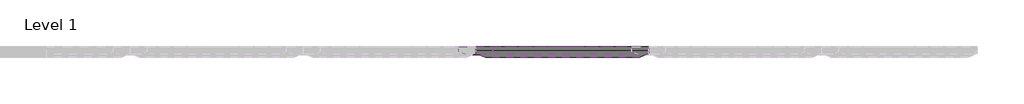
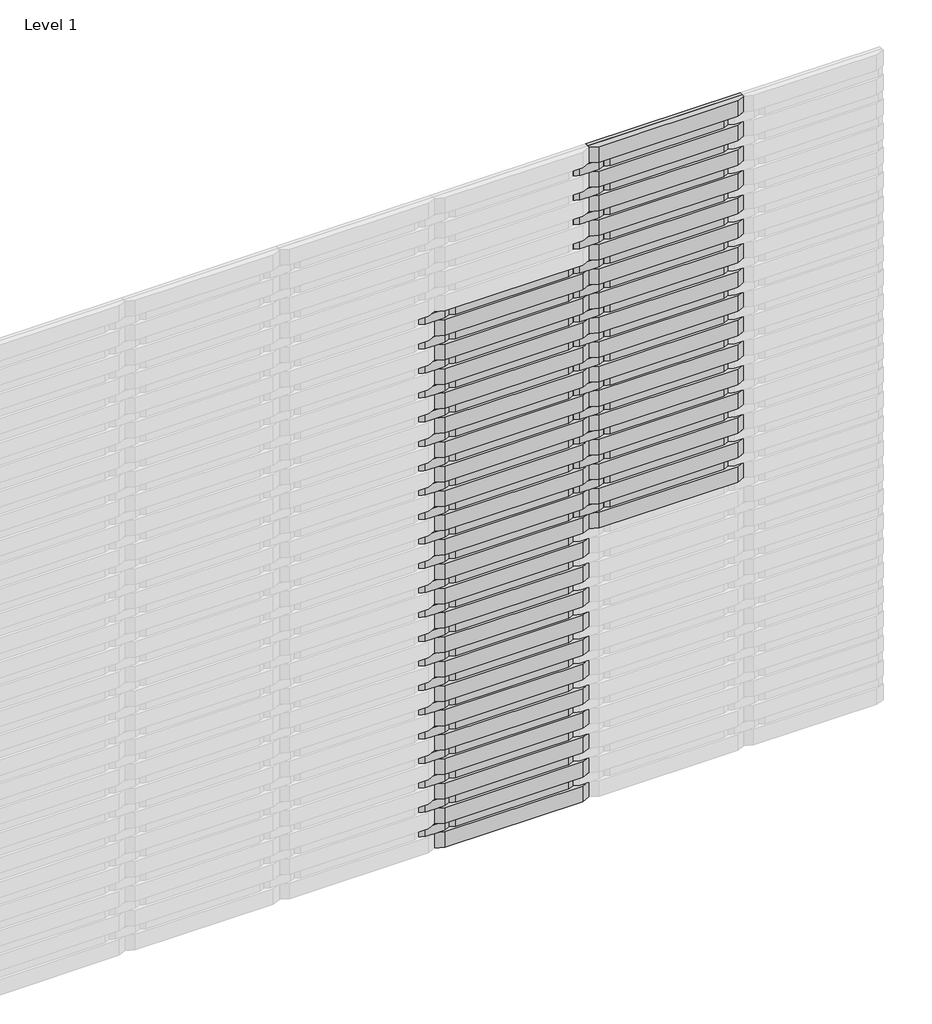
# One storey, part 3 of 4: 112 proxies.
"""IFC4 building model written with IfcOpenShell, lengths in millimetres."""

import ifcopenshell
import ifcopenshell.guid

model = None  # the IFC model being written
_history = None  # IfcOwnerHistory: only IFC2X3 demands one
_inside = {}  # id of a spatial element -> (the spatial element, [elements in it])
_under = {}  # id of a project, library or spatial element -> (it, [spatial elements below it])
_declared = {}  # id of a project -> (the project, [libraries it declares])
_typed = {}  # id of a type object -> (the type object, [elements of that type])
_made_of = {}  # id of a material, layer set ... -> (it, [elements and type objects made of it])


def new_model(schema):
    """Start an empty IFC model of exactly this schema.

    Asked for "IFC4X3", IfcOpenShell would pick the latest addendum, in which some entities
    have other attributes; the version numbers below select the first issue.
    IFC2X3 requires an IfcOwnerHistory on every rooted entity: one is made here for all.
    """
    global model, _history
    if schema == "IFC4X3":
        model = ifcopenshell.file(schema_version=(4, 3, 0, 0))
    else:
        model = ifcopenshell.file(schema=schema)
    _inside.clear()
    _under.clear()
    _declared.clear()
    _typed.clear()
    _made_of.clear()
    _history = None
    if model.schema == "IFC2X3":
        org = make("IfcOrganization", Name="unknown")
        user = make(
            "IfcPersonAndOrganization",
            ThePerson=make("IfcPerson", FamilyName="unknown"),
            TheOrganization=org,
        )
        app = make(
            "IfcApplication",
            ApplicationDeveloper=org,
            Version="unknown",
            ApplicationFullName="unknown",
            ApplicationIdentifier="unknown",
        )
        _history = make(
            "IfcOwnerHistory",
            OwningUser=user,
            OwningApplication=app,
            ChangeAction="ADDED",
            CreationDate=0,
        )
    return model


def make(cls, **values):
    """One entity of the class cls with the attributes given. An attribute that is None is left unset."""
    return model.create_entity(
        cls, **{name: value for name, value in values.items() if value is not None}
    )


def rooted(cls, **values):
    """An entity with a GlobalId (a new one), such as an element, a storey or a relation."""
    return make(cls, GlobalId=ifcopenshell.guid.new(), OwnerHistory=_history, **values)


def si_unit(unit_type, name, prefix=None):
    """IfcSIUnit, for example si_unit("LENGTHUNIT", "METRE", prefix="MILLI")."""
    return make("IfcSIUnit", UnitType=unit_type, Prefix=prefix, Name=name)


def assignment(units):
    """IfcUnitAssignment: the units of a project."""
    return None if units is None else make("IfcUnitAssignment", Units=units)


def point(xyz):
    """IfcCartesianPoint."""
    return None if xyz is None else make("IfcCartesianPoint", Coordinates=xyz)


def direction(xyz):
    """IfcDirection."""
    return None if xyz is None else make("IfcDirection", DirectionRatios=xyz)


def frame(location, z_axis=None, x_axis=None):
    """IfcAxis2Placement3D, a coordinate frame: its origin and axes. An axis left out is left unset."""
    return make(
        "IfcAxis2Placement3D",
        Location=point(location),
        Axis=direction(z_axis),
        RefDirection=direction(x_axis),
    )


def origin():
    """The frame at (0, 0, 0) with its axes left unset."""
    return frame((0.0, 0.0, 0.0))


def origin_with_axes():
    """The frame at (0, 0, 0) with the z axis (0, 0, 1) and the x axis (1, 0, 0) written out."""
    return frame((0.0, 0.0, 0.0), z_axis=(0.0, 0.0, 1.0), x_axis=(1.0, 0.0, 0.0))


def place(relative_to, where):
    """IfcLocalPlacement: puts the frame where relative to a parent placement (None: the world)."""
    return make(
        "IfcLocalPlacement", PlacementRelTo=relative_to, RelativePlacement=where
    )


def context(
    kind, dimensions, precision=None, world=None, true_north=None, identifier=None
):
    """IfcGeometricRepresentationContext, for example the 3D "Model" context."""
    return make(
        "IfcGeometricRepresentationContext",
        ContextIdentifier=identifier,
        ContextType=kind,
        CoordinateSpaceDimension=dimensions,
        Precision=precision,
        WorldCoordinateSystem=world,
        TrueNorth=true_north,
    )


def project(units=None, contexts=None):
    """IfcProject with its units and contexts."""
    return rooted(
        "IfcProject",
        Name="project",
        RepresentationContexts=contexts,
        UnitsInContext=assignment(units),
    )


def spatial(cls, under=None, at=None, **own):
    """A site, building, storey or space (cls), placed at a placement, below another one or the project."""
    s = rooted(cls, ObjectPlacement=at, **own)
    if under is not None:
        _under.setdefault(under.id(), (under, []))[1].append(s)
    return s


def polyline(points):
    """IfcPolyline through the points."""
    return make("IfcPolyline", Points=[point(p) for p in points])


def outline(outer, holes=None, kind="AREA"):
    """IfcArbitraryClosedProfileDef: a profile drawn as a closed curve; with holes, ...WithVoids."""
    if holes is None:
        return make("IfcArbitraryClosedProfileDef", ProfileType=kind, OuterCurve=outer)
    return make(
        "IfcArbitraryProfileDefWithVoids",
        ProfileType=kind,
        OuterCurve=outer,
        InnerCurves=holes,
    )


def extrude(swept, where, along, depth):
    """IfcExtrudedAreaSolid: the profile swept, set in the frame where, extruded along a direction by depth."""
    return make(
        "IfcExtrudedAreaSolid",
        SweptArea=swept,
        Position=where,
        ExtrudedDirection=direction(along),
        Depth=depth,
    )


def shape(context_of_items, identifier, shape_type, items):
    """IfcShapeRepresentation: the items that make up one representation, for example the "Body"."""
    return make(
        "IfcShapeRepresentation",
        ContextOfItems=context_of_items,
        RepresentationIdentifier=identifier,
        RepresentationType=shape_type,
        Items=items,
    )


def source(mapping_origin, context_of_items, identifier, shape_type, items):
    """IfcRepresentationMap: a shape defined once, which mapped items show again and again."""
    return make(
        "IfcRepresentationMap",
        MappingOrigin=mapping_origin,
        MappedRepresentation=shape(context_of_items, identifier, shape_type, items),
    )


def transform(
    local_origin,
    x_axis=None,
    y_axis=None,
    z_axis=None,
    scale=None,
    scale2=None,
    scale3=None,
    uniform=True,
):
    """IfcCartesianTransformationOperator3D, or its non-uniform kind. x_axis, y_axis, z_axis: its Axis1, 2, 3."""
    if uniform:
        return make(
            "IfcCartesianTransformationOperator3D",
            Axis1=direction(x_axis),
            Axis2=direction(y_axis),
            LocalOrigin=point(local_origin),
            Scale=scale,
            Axis3=direction(z_axis),
        )
    return make(
        "IfcCartesianTransformationOperator3DnonUniform",
        Axis1=direction(x_axis),
        Axis2=direction(y_axis),
        LocalOrigin=point(local_origin),
        Scale=scale,
        Axis3=direction(z_axis),
        Scale2=scale2,
        Scale3=scale3,
    )


def mapped(mapping_source, mapping_target):
    """IfcMappedItem: shows the shape of a source again, moved by a transform."""
    return make(
        "IfcMappedItem", MappingSource=mapping_source, MappingTarget=mapping_target
    )


def made_of(thing, what):
    """Note that an element or type object is made of a material, layer set ...; save() writes the relation."""
    if what is not None:
        _made_of.setdefault(what.id(), (what, []))[1].append(thing)
    return thing


def element(
    cls,
    number,
    at=None,
    inside=None,
    cuts=None,
    type_object=None,
    material=None,
    context=None,
    identifier="Body",
    shape_type=None,
    held_by="IfcProductDefinitionShape",
    body=None,
    shapes=None,
    **own,
):
    """One element of the class cls, such as IfcWall. Its Tag is "e" and its number.

    at: its placement. inside: the storey or other place that contains it. cuts: it is an
    opening in that element (IfcRelVoidsElement). A single representation is given by context,
    identifier, shape_type and body (its items); several are given by shapes. held_by: the class
    of the entity that holds the representations. save() writes the other relations.
    """
    e = rooted(cls, Tag="e%d" % number, ObjectPlacement=at, **own)
    if body is not None:
        shapes = [shape(context, identifier, shape_type, body)]
    if shapes is not None:
        e.Representation = make(held_by, Representations=shapes)
    if inside is not None:
        _inside.setdefault(inside.id(), (inside, []))[1].append(e)
    if cuts is not None:
        rooted(
            "IfcRelVoidsElement", RelatingBuildingElement=cuts, RelatedOpeningElement=e
        )
    if type_object is not None:
        _typed.setdefault(type_object.id(), (type_object, []))[1].append(e)
    return made_of(e, material)


def aggregate(whole, parts):
    """IfcRelAggregates: a whole, such as a stair, and the parts it consists of."""
    return rooted("IfcRelAggregates", RelatingObject=whole, RelatedObjects=parts)


def save(model, path):
    """Write the relations noted so far, then the file.

    IfcRelAggregates (storeys below a building ...), IfcRelContainedInSpatialStructure (elements
    in a storey), IfcRelDefinesByType, IfcRelAssociatesMaterial and IfcRelDeclares: one each for
    every whole, place, type object, material and project.
    """
    for whole, parts in _under.values():
        aggregate(whole, parts)
    for where, things in _inside.values():
        rooted(
            "IfcRelContainedInSpatialStructure",
            RelatedElements=things,
            RelatingStructure=where,
        )
    for kind, things in _typed.values():
        rooted("IfcRelDefinesByType", RelatedObjects=things, RelatingType=kind)
    for what, things in _made_of.values():
        rooted("IfcRelAssociatesMaterial", RelatedObjects=things, RelatingMaterial=what)
    for by, libraries in _declared.values():
        rooted("IfcRelDeclares", RelatingContext=by, RelatedDefinitions=libraries)
    model.write(path)


def specialty_equipment_40f1bc00(model_context):
    return source(origin(), model_context, "Body", "SweptSolid", [
        extrude(outline(polyline([(19.05, -419.1), (19.05, 419.1), (31.75, 419.1), (50.8, 374.65), (50.8, -374.65), (31.75, -419.1), (19.05, -419.1)])), frame((0.0, -44.45, 0.0), z_axis=(0.0, 1.0, 0.0), x_axis=(0.0, 0.0, 1.0)), (0.0, 0.0, 1.0), 88.9),
        extrude(outline(polyline([(-419.1, -44.45), (-419.1, 44.45), (419.1, 44.45), (419.1, -44.45), (-419.1, -44.45)])), origin_with_axes(), (0.0, 0.0, 1.0), 19.05),
    ])


def specialty_equipment_c238b70d(model_context):
    return source(origin(), model_context, "Body", "SweptSolid", [
        extrude(outline(polyline([(19.05, -82.55), (19.05, 82.55), (25.4, 82.55), (38.1, 52.9166667), (38.1, -52.9166667), (25.4, -82.55), (19.05, -82.55)])), frame((0.0, -25.4, 0.0), z_axis=(0.0, 1.0, 0.0), x_axis=(0.0, 0.0, 1.0)), (0.0, 0.0, 1.0), 50.8),
        extrude(outline(polyline([(-82.55, -25.4), (-82.55, 25.4), (82.55, 25.4), (82.55, -25.4), (-82.55, -25.4)])), origin_with_axes(), (0.0, 0.0, 1.0), 19.05),
    ])


def specialty_equipment_e09701c8(model_context):
    return source(origin(), model_context, "Body", "SweptSolid", [
        extrude(outline(polyline([(19.05, 336.5), (25.4, 336.5), (38.1, 306.8666667), (38.1, -306.8666667), (25.4, -336.5), (19.05, -336.5), (19.05, 336.5)])), frame((0.0, -25.4, 0.0), z_axis=(0.0, 1.0, 0.0), x_axis=(0.0, 0.0, 1.0)), (0.0, 0.0, 1.0), 50.8),
        extrude(outline(polyline([(-336.5, 25.4), (336.5, 25.4), (336.5, -25.4), (-336.5, -25.4), (-336.5, 25.4)])), origin_with_axes(), (0.0, 0.0, 1.0), 19.05),
    ])


model = new_model("IFC4")

# Units and contexts
model_context = context("Model", 3, world=origin())
ifc_project = project(units=[si_unit("LENGTHUNIT", "METRE", prefix="MILLI")], contexts=[model_context])

# Site, building, storey
site = spatial("IfcSite", under=ifc_project)
building = spatial("IfcBuilding", under=site)
storey = spatial("IfcBuildingStorey", under=building, Name="Level 1", Elevation=0.0)

# Proxies
placement = place(None, origin())
specialty_equipment_shape = specialty_equipment_40f1bc00(model_context)
element("IfcBuildingElementProxy", 1, Name="Spinneybeck_ARO Plank 8 : A - 2’-9” x 3 1/2” x 1 1/4”", ObjectType="Spinneybeck_ARO Plank 8 : A - 2’-9” x 3 1/2” x 1 1/4”", at=placement, inside=storey, context=model_context, shape_type="MappedRepresentation", body=[
    mapped(specialty_equipment_shape, transform((3652.779612, 2593.3070483, 3755.55), x_axis=(1.0, 0.0, 0.0), y_axis=(0.0, 0.0, 1.0), z_axis=(0.0, -1.0, 0.0))),
])
element("IfcBuildingElementProxy", 2, Name="Spinneybeck_ARO Plank 8 : A - 2’-9” x 3 1/2” x 1 1/4”", ObjectType="Spinneybeck_ARO Plank 8 : A - 2’-9” x 3 1/2” x 1 1/4”", at=placement, inside=storey, context=model_context, shape_type="MappedRepresentation", body=[
    mapped(specialty_equipment_shape, transform((3652.779612, 2593.3070483, 3615.85), x_axis=(1.0, 0.0, 0.0), y_axis=(0.0, 0.0, 1.0), z_axis=(0.0, -1.0, 0.0))),
])
element("IfcBuildingElementProxy", 3, Name="Spinneybeck_ARO Plank 8 : A - 2’-9” x 3 1/2” x 1 1/4”", ObjectType="Spinneybeck_ARO Plank 8 : A - 2’-9” x 3 1/2” x 1 1/4”", at=placement, inside=storey, context=model_context, shape_type="MappedRepresentation", body=[
    mapped(specialty_equipment_shape, transform((3652.779612, 2593.3070483, 3476.15), x_axis=(1.0, 0.0, 0.0), y_axis=(0.0, 0.0, 1.0), z_axis=(0.0, -1.0, 0.0))),
])
element("IfcBuildingElementProxy", 4, Name="Spinneybeck_ARO Plank 8 : A - 2’-9” x 3 1/2” x 1 1/4”", ObjectType="Spinneybeck_ARO Plank 8 : A - 2’-9” x 3 1/2” x 1 1/4”", at=placement, inside=storey, context=model_context, shape_type="MappedRepresentation", body=[
    mapped(specialty_equipment_shape, transform((3652.779612, 2593.3070483, 3336.45), x_axis=(1.0, 0.0, 0.0), y_axis=(0.0, 0.0, 1.0), z_axis=(0.0, -1.0, 0.0))),
])
element("IfcBuildingElementProxy", 5, Name="Spinneybeck_ARO Plank 8 : A - 2’-9” x 3 1/2” x 1 1/4”", ObjectType="Spinneybeck_ARO Plank 8 : A - 2’-9” x 3 1/2” x 1 1/4”", at=placement, inside=storey, context=model_context, shape_type="MappedRepresentation", body=[
    mapped(specialty_equipment_shape, transform((3652.779612, 2593.3070483, 3196.75), x_axis=(1.0, 0.0, 0.0), y_axis=(0.0, 0.0, 1.0), z_axis=(0.0, -1.0, 0.0))),
])
element("IfcBuildingElementProxy", 6, Name="Spinneybeck_ARO Plank 8 : A - 2’-9” x 3 1/2” x 1 1/4”", ObjectType="Spinneybeck_ARO Plank 8 : A - 2’-9” x 3 1/2” x 1 1/4”", at=placement, inside=storey, context=model_context, shape_type="MappedRepresentation", body=[
    mapped(specialty_equipment_shape, transform((2814.579612, 2593.3070483, 3057.05), x_axis=(1.0, 0.0, 0.0), y_axis=(0.0, 0.0, 1.0), z_axis=(0.0, -1.0, 0.0))),
])
element("IfcBuildingElementProxy", 7, Name="Spinneybeck_ARO Plank 8 : A - 2’-9” x 3 1/2” x 1 1/4”", ObjectType="Spinneybeck_ARO Plank 8 : A - 2’-9” x 3 1/2” x 1 1/4”", at=placement, inside=storey, context=model_context, shape_type="MappedRepresentation", body=[
    mapped(specialty_equipment_shape, transform((3652.779612, 2593.3070483, 3057.05), x_axis=(1.0, 0.0, 0.0), y_axis=(0.0, 0.0, 1.0), z_axis=(0.0, -1.0, 0.0))),
])
element("IfcBuildingElementProxy", 8, Name="Spinneybeck_ARO Plank 8 : A - 2’-9” x 3 1/2” x 1 1/4”", ObjectType="Spinneybeck_ARO Plank 8 : A - 2’-9” x 3 1/2” x 1 1/4”", at=placement, inside=storey, context=model_context, shape_type="MappedRepresentation", body=[
    mapped(specialty_equipment_shape, transform((2814.579612, 2593.3070483, 2917.35), x_axis=(1.0, 0.0, 0.0), y_axis=(0.0, 0.0, 1.0), z_axis=(0.0, -1.0, 0.0))),
])
element("IfcBuildingElementProxy", 9, Name="Spinneybeck_ARO Plank 8 : A - 2’-9” x 3 1/2” x 1 1/4”", ObjectType="Spinneybeck_ARO Plank 8 : A - 2’-9” x 3 1/2” x 1 1/4”", at=placement, inside=storey, context=model_context, shape_type="MappedRepresentation", body=[
    mapped(specialty_equipment_shape, transform((3652.779612, 2593.3070483, 2917.35), x_axis=(1.0, 0.0, 0.0), y_axis=(0.0, 0.0, 1.0), z_axis=(0.0, -1.0, 0.0))),
])
element("IfcBuildingElementProxy", 10, Name="Spinneybeck_ARO Plank 8 : A - 2’-9” x 3 1/2” x 1 1/4”", ObjectType="Spinneybeck_ARO Plank 8 : A - 2’-9” x 3 1/2” x 1 1/4”", at=placement, inside=storey, context=model_context, shape_type="MappedRepresentation", body=[
    mapped(specialty_equipment_shape, transform((2814.579612, 2593.3070483, 2777.65), x_axis=(1.0, 0.0, 0.0), y_axis=(0.0, 0.0, 1.0), z_axis=(0.0, -1.0, 0.0))),
])
element("IfcBuildingElementProxy", 11, Name="Spinneybeck_ARO Plank 8 : A - 2’-9” x 3 1/2” x 1 1/4”", ObjectType="Spinneybeck_ARO Plank 8 : A - 2’-9” x 3 1/2” x 1 1/4”", at=placement, inside=storey, context=model_context, shape_type="MappedRepresentation", body=[
    mapped(specialty_equipment_shape, transform((3652.779612, 2593.3070483, 2777.65), x_axis=(1.0, 0.0, 0.0), y_axis=(0.0, 0.0, 1.0), z_axis=(0.0, -1.0, 0.0))),
])
element("IfcBuildingElementProxy", 12, Name="Spinneybeck_ARO Plank 8 : A - 2’-9” x 3 1/2” x 1 1/4”", ObjectType="Spinneybeck_ARO Plank 8 : A - 2’-9” x 3 1/2” x 1 1/4”", at=placement, inside=storey, context=model_context, shape_type="MappedRepresentation", body=[
    mapped(specialty_equipment_shape, transform((2814.579612, 2593.3070483, 2637.95), x_axis=(1.0, 0.0, 0.0), y_axis=(0.0, 0.0, 1.0), z_axis=(0.0, -1.0, 0.0))),
])
element("IfcBuildingElementProxy", 13, Name="Spinneybeck_ARO Plank 8 : A - 2’-9” x 3 1/2” x 1 1/4”", ObjectType="Spinneybeck_ARO Plank 8 : A - 2’-9” x 3 1/2” x 1 1/4”", at=placement, inside=storey, context=model_context, shape_type="MappedRepresentation", body=[
    mapped(specialty_equipment_shape, transform((3652.779612, 2593.3070483, 2637.95), x_axis=(1.0, 0.0, 0.0), y_axis=(0.0, 0.0, 1.0), z_axis=(0.0, -1.0, 0.0))),
])
element("IfcBuildingElementProxy", 14, Name="Spinneybeck_ARO Plank 8 : A - 2’-9” x 3 1/2” x 1 1/4”", ObjectType="Spinneybeck_ARO Plank 8 : A - 2’-9” x 3 1/2” x 1 1/4”", at=placement, inside=storey, context=model_context, shape_type="MappedRepresentation", body=[
    mapped(specialty_equipment_shape, transform((2814.579612, 2593.3070483, 2498.25), x_axis=(1.0, 0.0, 0.0), y_axis=(0.0, 0.0, 1.0), z_axis=(0.0, -1.0, 0.0))),
])
element("IfcBuildingElementProxy", 15, Name="Spinneybeck_ARO Plank 8 : A - 2’-9” x 3 1/2” x 1 1/4”", ObjectType="Spinneybeck_ARO Plank 8 : A - 2’-9” x 3 1/2” x 1 1/4”", at=placement, inside=storey, context=model_context, shape_type="MappedRepresentation", body=[
    mapped(specialty_equipment_shape, transform((3652.779612, 2593.3070483, 2498.25), x_axis=(1.0, 0.0, 0.0), y_axis=(0.0, 0.0, 1.0), z_axis=(0.0, -1.0, 0.0))),
])
element("IfcBuildingElementProxy", 16, Name="Spinneybeck_ARO Plank 8 : A - 2’-9” x 3 1/2” x 1 1/4”", ObjectType="Spinneybeck_ARO Plank 8 : A - 2’-9” x 3 1/2” x 1 1/4”", at=placement, inside=storey, context=model_context, shape_type="MappedRepresentation", body=[
    mapped(specialty_equipment_shape, transform((2814.579612, 2593.3070483, 2358.55), x_axis=(1.0, 0.0, 0.0), y_axis=(0.0, 0.0, 1.0), z_axis=(0.0, -1.0, 0.0))),
])
element("IfcBuildingElementProxy", 17, Name="Spinneybeck_ARO Plank 8 : A - 2’-9” x 3 1/2” x 1 1/4”", ObjectType="Spinneybeck_ARO Plank 8 : A - 2’-9” x 3 1/2” x 1 1/4”", at=placement, inside=storey, context=model_context, shape_type="MappedRepresentation", body=[
    mapped(specialty_equipment_shape, transform((3652.779612, 2593.3070483, 2358.55), x_axis=(1.0, 0.0, 0.0), y_axis=(0.0, 0.0, 1.0), z_axis=(0.0, -1.0, 0.0))),
])
element("IfcBuildingElementProxy", 18, Name="Spinneybeck_ARO Plank 8 : A - 2’-9” x 3 1/2” x 1 1/4”", ObjectType="Spinneybeck_ARO Plank 8 : A - 2’-9” x 3 1/2” x 1 1/4”", at=placement, inside=storey, context=model_context, shape_type="MappedRepresentation", body=[
    mapped(specialty_equipment_shape, transform((2814.579612, 2593.3070483, 2218.85), x_axis=(1.0, 0.0, 0.0), y_axis=(0.0, 0.0, 1.0), z_axis=(0.0, -1.0, 0.0))),
])
element("IfcBuildingElementProxy", 19, Name="Spinneybeck_ARO Plank 8 : A - 2’-9” x 3 1/2” x 1 1/4”", ObjectType="Spinneybeck_ARO Plank 8 : A - 2’-9” x 3 1/2” x 1 1/4”", at=placement, inside=storey, context=model_context, shape_type="MappedRepresentation", body=[
    mapped(specialty_equipment_shape, transform((3652.779612, 2593.3070483, 2218.85), x_axis=(1.0, 0.0, 0.0), y_axis=(0.0, 0.0, 1.0), z_axis=(0.0, -1.0, 0.0))),
])
element("IfcBuildingElementProxy", 20, Name="Spinneybeck_ARO Plank 8 : A - 2’-9” x 3 1/2” x 1 1/4”", ObjectType="Spinneybeck_ARO Plank 8 : A - 2’-9” x 3 1/2” x 1 1/4”", at=placement, inside=storey, context=model_context, shape_type="MappedRepresentation", body=[
    mapped(specialty_equipment_shape, transform((2814.579612, 2593.3070483, 2079.15), x_axis=(1.0, 0.0, 0.0), y_axis=(0.0, 0.0, 1.0), z_axis=(0.0, -1.0, 0.0))),
])
element("IfcBuildingElementProxy", 21, Name="Spinneybeck_ARO Plank 8 : A - 2’-9” x 3 1/2” x 1 1/4”", ObjectType="Spinneybeck_ARO Plank 8 : A - 2’-9” x 3 1/2” x 1 1/4”", at=placement, inside=storey, context=model_context, shape_type="MappedRepresentation", body=[
    mapped(specialty_equipment_shape, transform((3652.779612, 2593.3070483, 2079.15), x_axis=(1.0, 0.0, 0.0), y_axis=(0.0, 0.0, 1.0), z_axis=(0.0, -1.0, 0.0))),
])
element("IfcBuildingElementProxy", 22, Name="Spinneybeck_ARO Plank 8 : A - 2’-9” x 3 1/2” x 1 1/4”", ObjectType="Spinneybeck_ARO Plank 8 : A - 2’-9” x 3 1/2” x 1 1/4”", at=placement, inside=storey, context=model_context, shape_type="MappedRepresentation", body=[
    mapped(specialty_equipment_shape, transform((2814.579612, 2593.3070483, 1939.45), x_axis=(1.0, 0.0, 0.0), y_axis=(0.0, 0.0, 1.0), z_axis=(0.0, -1.0, 0.0))),
])
element("IfcBuildingElementProxy", 23, Name="Spinneybeck_ARO Plank 8 : A - 2’-9” x 3 1/2” x 1 1/4”", ObjectType="Spinneybeck_ARO Plank 8 : A - 2’-9” x 3 1/2” x 1 1/4”", at=placement, inside=storey, context=model_context, shape_type="MappedRepresentation", body=[
    mapped(specialty_equipment_shape, transform((3652.779612, 2593.3070483, 1939.45), x_axis=(1.0, 0.0, 0.0), y_axis=(0.0, 0.0, 1.0), z_axis=(0.0, -1.0, 0.0))),
])
element("IfcBuildingElementProxy", 24, Name="Spinneybeck_ARO Plank 8 : A - 2’-9” x 3 1/2” x 1 1/4”", ObjectType="Spinneybeck_ARO Plank 8 : A - 2’-9” x 3 1/2” x 1 1/4”", at=placement, inside=storey, context=model_context, shape_type="MappedRepresentation", body=[
    mapped(specialty_equipment_shape, transform((2814.579612, 2593.3070483, 1799.75), x_axis=(1.0, 0.0, 0.0), y_axis=(0.0, 0.0, 1.0), z_axis=(0.0, -1.0, 0.0))),
])
element("IfcBuildingElementProxy", 25, Name="Spinneybeck_ARO Plank 8 : A - 2’-9” x 3 1/2” x 1 1/4”", ObjectType="Spinneybeck_ARO Plank 8 : A - 2’-9” x 3 1/2” x 1 1/4”", at=placement, inside=storey, context=model_context, shape_type="MappedRepresentation", body=[
    mapped(specialty_equipment_shape, transform((3652.779612, 2593.3070483, 1799.75), x_axis=(1.0, 0.0, 0.0), y_axis=(0.0, 0.0, 1.0), z_axis=(0.0, -1.0, 0.0))),
])
element("IfcBuildingElementProxy", 26, Name="Spinneybeck_ARO Plank 8 : A - 2’-9” x 3 1/2” x 1 1/4”", ObjectType="Spinneybeck_ARO Plank 8 : A - 2’-9” x 3 1/2” x 1 1/4”", at=placement, inside=storey, context=model_context, shape_type="MappedRepresentation", body=[
    mapped(specialty_equipment_shape, transform((2814.579612, 2593.3070483, 1660.05), x_axis=(1.0, 0.0, 0.0), y_axis=(0.0, 0.0, 1.0), z_axis=(0.0, -1.0, 0.0))),
])
element("IfcBuildingElementProxy", 27, Name="Spinneybeck_ARO Plank 8 : A - 2’-9” x 3 1/2” x 1 1/4”", ObjectType="Spinneybeck_ARO Plank 8 : A - 2’-9” x 3 1/2” x 1 1/4”", at=placement, inside=storey, context=model_context, shape_type="MappedRepresentation", body=[
    mapped(specialty_equipment_shape, transform((3652.779612, 2593.3070483, 1660.05), x_axis=(1.0, 0.0, 0.0), y_axis=(0.0, 0.0, 1.0), z_axis=(0.0, -1.0, 0.0))),
])
element("IfcBuildingElementProxy", 28, Name="Spinneybeck_ARO Plank 8 : A - 2’-9” x 3 1/2” x 1 1/4”", ObjectType="Spinneybeck_ARO Plank 8 : A - 2’-9” x 3 1/2” x 1 1/4”", at=placement, inside=storey, context=model_context, shape_type="MappedRepresentation", body=[
    mapped(specialty_equipment_shape, transform((2814.579612, 2593.3070483, 1520.35), x_axis=(1.0, 0.0, 0.0), y_axis=(0.0, 0.0, 1.0), z_axis=(0.0, -1.0, 0.0))),
])
element("IfcBuildingElementProxy", 29, Name="Spinneybeck_ARO Plank 8 : A - 2’-9” x 3 1/2” x 1 1/4”", ObjectType="Spinneybeck_ARO Plank 8 : A - 2’-9” x 3 1/2” x 1 1/4”", at=placement, inside=storey, context=model_context, shape_type="MappedRepresentation", body=[
    mapped(specialty_equipment_shape, transform((2814.579612, 2593.3070483, 1380.65), x_axis=(1.0, 0.0, 0.0), y_axis=(0.0, 0.0, 1.0), z_axis=(0.0, -1.0, 0.0))),
])
element("IfcBuildingElementProxy", 30, Name="Spinneybeck_ARO Plank 8 : A - 2’-9” x 3 1/2” x 1 1/4”", ObjectType="Spinneybeck_ARO Plank 8 : A - 2’-9” x 3 1/2” x 1 1/4”", at=placement, inside=storey, context=model_context, shape_type="MappedRepresentation", body=[
    mapped(specialty_equipment_shape, transform((2814.579612, 2593.3070483, 1240.95), x_axis=(1.0, 0.0, 0.0), y_axis=(0.0, 0.0, 1.0), z_axis=(0.0, -1.0, 0.0))),
])
element("IfcBuildingElementProxy", 31, Name="Spinneybeck_ARO Plank 8 : A - 2’-9” x 3 1/2” x 1 1/4”", ObjectType="Spinneybeck_ARO Plank 8 : A - 2’-9” x 3 1/2” x 1 1/4”", at=placement, inside=storey, context=model_context, shape_type="MappedRepresentation", body=[
    mapped(specialty_equipment_shape, transform((2814.579612, 2593.3070483, 1101.25), x_axis=(1.0, 0.0, 0.0), y_axis=(0.0, 0.0, 1.0), z_axis=(0.0, -1.0, 0.0))),
])
element("IfcBuildingElementProxy", 32, Name="Spinneybeck_ARO Plank 8 : A - 2’-9” x 3 1/2” x 1 1/4”", ObjectType="Spinneybeck_ARO Plank 8 : A - 2’-9” x 3 1/2” x 1 1/4”", at=placement, inside=storey, context=model_context, shape_type="MappedRepresentation", body=[
    mapped(specialty_equipment_shape, transform((2814.579612, 2593.3070483, 961.55), x_axis=(1.0, 0.0, 0.0), y_axis=(0.0, 0.0, 1.0), z_axis=(0.0, -1.0, 0.0))),
])
element("IfcBuildingElementProxy", 33, Name="Spinneybeck_ARO Plank 8 : A - 2’-9” x 3 1/2” x 1 1/4”", ObjectType="Spinneybeck_ARO Plank 8 : A - 2’-9” x 3 1/2” x 1 1/4”", at=placement, inside=storey, context=model_context, shape_type="MappedRepresentation", body=[
    mapped(specialty_equipment_shape, transform((2814.579612, 2593.3070483, 821.85), x_axis=(1.0, 0.0, 0.0), y_axis=(0.0, 0.0, 1.0), z_axis=(0.0, -1.0, 0.0))),
])
element("IfcBuildingElementProxy", 34, Name="Spinneybeck_ARO Plank 8 : A - 2’-9” x 3 1/2” x 1 1/4”", ObjectType="Spinneybeck_ARO Plank 8 : A - 2’-9” x 3 1/2” x 1 1/4”", at=placement, inside=storey, context=model_context, shape_type="MappedRepresentation", body=[
    mapped(specialty_equipment_shape, transform((2814.579612, 2593.3070483, 682.15), x_axis=(1.0, 0.0, 0.0), y_axis=(0.0, 0.0, 1.0), z_axis=(0.0, -1.0, 0.0))),
])
element("IfcBuildingElementProxy", 35, Name="Spinneybeck_ARO Plank 8 : A - 2’-9” x 3 1/2” x 1 1/4”", ObjectType="Spinneybeck_ARO Plank 8 : A - 2’-9” x 3 1/2” x 1 1/4”", at=placement, inside=storey, context=model_context, shape_type="MappedRepresentation", body=[
    mapped(specialty_equipment_shape, transform((2814.579612, 2593.3070483, 542.45), x_axis=(1.0, 0.0, 0.0), y_axis=(0.0, 0.0, 1.0), z_axis=(0.0, -1.0, 0.0))),
])
element("IfcBuildingElementProxy", 36, Name="Spinneybeck_ARO Plank 8 : A - 2’-9” x 3 1/2” x 1 1/4”", ObjectType="Spinneybeck_ARO Plank 8 : A - 2’-9” x 3 1/2” x 1 1/4”", at=placement, inside=storey, context=model_context, shape_type="MappedRepresentation", body=[
    mapped(specialty_equipment_shape, transform((2814.579612, 2593.3070483, 402.75), x_axis=(1.0, 0.0, 0.0), y_axis=(0.0, 0.0, 1.0), z_axis=(0.0, -1.0, 0.0))),
])
element("IfcBuildingElementProxy", 37, Name="Spinneybeck_ARO Plank 8 : A - 2’-9” x 3 1/2” x 1 1/4”", ObjectType="Spinneybeck_ARO Plank 8 : A - 2’-9” x 3 1/2” x 1 1/4”", at=placement, inside=storey, context=model_context, shape_type="MappedRepresentation", body=[
    mapped(specialty_equipment_shape, transform((2814.579612, 2593.3070483, 263.05), x_axis=(1.0, 0.0, 0.0), y_axis=(0.0, 0.0, 1.0), z_axis=(0.0, -1.0, 0.0))),
])
element("IfcBuildingElementProxy", 38, Name="Spinneybeck_ARO Plank 8 : A - 2’-9” x 3 1/2” x 1 1/4”", ObjectType="Spinneybeck_ARO Plank 8 : A - 2’-9” x 3 1/2” x 1 1/4”", at=placement, inside=storey, context=model_context, shape_type="MappedRepresentation", body=[
    mapped(specialty_equipment_shape, transform((2814.579612, 2593.3070483, 123.35), x_axis=(1.0, 0.0, 0.0), y_axis=(0.0, 0.0, 1.0), z_axis=(0.0, -1.0, 0.0))),
])
specialty_equipment_2_shape = specialty_equipment_c238b70d(model_context)
element("IfcBuildingElementProxy", 39, Name="Spinneybeck_ARO Plank 8 : E - 6 1/2” x 2” x 3/4”", ObjectType="Spinneybeck_ARO Plank 8 : E - 6 1/2” x 2” x 3/4”", at=placement, inside=storey, context=model_context, shape_type="MappedRepresentation", body=[
    mapped(specialty_equipment_2_shape, transform((3233.679612, 2593.3070483, 3685.7), x_axis=(1.0, 0.0, 0.0), y_axis=(0.0, 0.0, 1.0), z_axis=(0.0, -1.0, 0.0))),
])
element("IfcBuildingElementProxy", 40, Name="Spinneybeck_ARO Plank 8 : E - 6 1/2” x 2” x 3/4”", ObjectType="Spinneybeck_ARO Plank 8 : E - 6 1/2” x 2” x 3/4”", at=placement, inside=storey, context=model_context, shape_type="MappedRepresentation", body=[
    mapped(specialty_equipment_2_shape, transform((3233.679612, 2593.3070483, 3546.0), x_axis=(1.0, 0.0, 0.0), y_axis=(0.0, 0.0, 1.0), z_axis=(0.0, -1.0, 0.0))),
])
element("IfcBuildingElementProxy", 41, Name="Spinneybeck_ARO Plank 8 : E - 6 1/2” x 2” x 3/4”", ObjectType="Spinneybeck_ARO Plank 8 : E - 6 1/2” x 2” x 3/4”", at=placement, inside=storey, context=model_context, shape_type="MappedRepresentation", body=[
    mapped(specialty_equipment_2_shape, transform((3233.679612, 2593.3070483, 3406.3), x_axis=(1.0, 0.0, 0.0), y_axis=(0.0, 0.0, 1.0), z_axis=(0.0, -1.0, 0.0))),
])
element("IfcBuildingElementProxy", 42, Name="Spinneybeck_ARO Plank 8 : E - 6 1/2” x 2” x 3/4”", ObjectType="Spinneybeck_ARO Plank 8 : E - 6 1/2” x 2” x 3/4”", at=placement, inside=storey, context=model_context, shape_type="MappedRepresentation", body=[
    mapped(specialty_equipment_2_shape, transform((3233.679612, 2593.3070483, 3266.6), x_axis=(1.0, 0.0, 0.0), y_axis=(0.0, 0.0, 1.0), z_axis=(0.0, -1.0, 0.0))),
])
element("IfcBuildingElementProxy", 43, Name="Spinneybeck_ARO Plank 8 : E - 6 1/2” x 2” x 3/4”", ObjectType="Spinneybeck_ARO Plank 8 : E - 6 1/2” x 2” x 3/4”", at=placement, inside=storey, context=model_context, shape_type="MappedRepresentation", body=[
    mapped(specialty_equipment_2_shape, transform((2395.479612, 2593.3070483, 3126.9), x_axis=(1.0, 0.0, 0.0), y_axis=(0.0, 0.0, 1.0), z_axis=(0.0, -1.0, 0.0))),
])
element("IfcBuildingElementProxy", 44, Name="Spinneybeck_ARO Plank 8 : E - 6 1/2” x 2” x 3/4”", ObjectType="Spinneybeck_ARO Plank 8 : E - 6 1/2” x 2” x 3/4”", at=placement, inside=storey, context=model_context, shape_type="MappedRepresentation", body=[
    mapped(specialty_equipment_2_shape, transform((3233.679612, 2593.3070483, 3126.9), x_axis=(1.0, 0.0, 0.0), y_axis=(0.0, 0.0, 1.0), z_axis=(0.0, -1.0, 0.0))),
])
element("IfcBuildingElementProxy", 45, Name="Spinneybeck_ARO Plank 8 : E - 6 1/2” x 2” x 3/4”", ObjectType="Spinneybeck_ARO Plank 8 : E - 6 1/2” x 2” x 3/4”", at=placement, inside=storey, context=model_context, shape_type="MappedRepresentation", body=[
    mapped(specialty_equipment_2_shape, transform((2395.479612, 2593.3070483, 2987.2), x_axis=(1.0, 0.0, 0.0), y_axis=(0.0, 0.0, 1.0), z_axis=(0.0, -1.0, 0.0))),
])
element("IfcBuildingElementProxy", 46, Name="Spinneybeck_ARO Plank 8 : E - 6 1/2” x 2” x 3/4”", ObjectType="Spinneybeck_ARO Plank 8 : E - 6 1/2” x 2” x 3/4”", at=placement, inside=storey, context=model_context, shape_type="MappedRepresentation", body=[
    mapped(specialty_equipment_2_shape, transform((3233.679612, 2593.3070483, 2987.2), x_axis=(1.0, 0.0, 0.0), y_axis=(0.0, 0.0, 1.0), z_axis=(0.0, -1.0, 0.0))),
])
element("IfcBuildingElementProxy", 47, Name="Spinneybeck_ARO Plank 8 : E - 6 1/2” x 2” x 3/4”", ObjectType="Spinneybeck_ARO Plank 8 : E - 6 1/2” x 2” x 3/4”", at=placement, inside=storey, context=model_context, shape_type="MappedRepresentation", body=[
    mapped(specialty_equipment_2_shape, transform((2395.479612, 2593.3070483, 2847.5), x_axis=(1.0, 0.0, 0.0), y_axis=(0.0, 0.0, 1.0), z_axis=(0.0, -1.0, 0.0))),
])
element("IfcBuildingElementProxy", 48, Name="Spinneybeck_ARO Plank 8 : E - 6 1/2” x 2” x 3/4”", ObjectType="Spinneybeck_ARO Plank 8 : E - 6 1/2” x 2” x 3/4”", at=placement, inside=storey, context=model_context, shape_type="MappedRepresentation", body=[
    mapped(specialty_equipment_2_shape, transform((3233.679612, 2593.3070483, 2847.5), x_axis=(1.0, 0.0, 0.0), y_axis=(0.0, 0.0, 1.0), z_axis=(0.0, -1.0, 0.0))),
])
element("IfcBuildingElementProxy", 49, Name="Spinneybeck_ARO Plank 8 : E - 6 1/2” x 2” x 3/4”", ObjectType="Spinneybeck_ARO Plank 8 : E - 6 1/2” x 2” x 3/4”", at=placement, inside=storey, context=model_context, shape_type="MappedRepresentation", body=[
    mapped(specialty_equipment_2_shape, transform((2395.479612, 2593.3070483, 2707.8), x_axis=(1.0, 0.0, 0.0), y_axis=(0.0, 0.0, 1.0), z_axis=(0.0, -1.0, 0.0))),
])
element("IfcBuildingElementProxy", 50, Name="Spinneybeck_ARO Plank 8 : E - 6 1/2” x 2” x 3/4”", ObjectType="Spinneybeck_ARO Plank 8 : E - 6 1/2” x 2” x 3/4”", at=placement, inside=storey, context=model_context, shape_type="MappedRepresentation", body=[
    mapped(specialty_equipment_2_shape, transform((3233.679612, 2593.3070483, 2707.8), x_axis=(1.0, 0.0, 0.0), y_axis=(0.0, 0.0, 1.0), z_axis=(0.0, -1.0, 0.0))),
])
element("IfcBuildingElementProxy", 51, Name="Spinneybeck_ARO Plank 8 : E - 6 1/2” x 2” x 3/4”", ObjectType="Spinneybeck_ARO Plank 8 : E - 6 1/2” x 2” x 3/4”", at=placement, inside=storey, context=model_context, shape_type="MappedRepresentation", body=[
    mapped(specialty_equipment_2_shape, transform((2395.479612, 2593.3070483, 2568.1), x_axis=(1.0, 0.0, 0.0), y_axis=(0.0, 0.0, 1.0), z_axis=(0.0, -1.0, 0.0))),
])
element("IfcBuildingElementProxy", 52, Name="Spinneybeck_ARO Plank 8 : E - 6 1/2” x 2” x 3/4”", ObjectType="Spinneybeck_ARO Plank 8 : E - 6 1/2” x 2” x 3/4”", at=placement, inside=storey, context=model_context, shape_type="MappedRepresentation", body=[
    mapped(specialty_equipment_2_shape, transform((3233.679612, 2593.3070483, 2568.1), x_axis=(1.0, 0.0, 0.0), y_axis=(0.0, 0.0, 1.0), z_axis=(0.0, -1.0, 0.0))),
])
element("IfcBuildingElementProxy", 53, Name="Spinneybeck_ARO Plank 8 : E - 6 1/2” x 2” x 3/4”", ObjectType="Spinneybeck_ARO Plank 8 : E - 6 1/2” x 2” x 3/4”", at=placement, inside=storey, context=model_context, shape_type="MappedRepresentation", body=[
    mapped(specialty_equipment_2_shape, transform((2395.479612, 2593.3070483, 2428.4), x_axis=(1.0, 0.0, 0.0), y_axis=(0.0, 0.0, 1.0), z_axis=(0.0, -1.0, 0.0))),
])
element("IfcBuildingElementProxy", 54, Name="Spinneybeck_ARO Plank 8 : E - 6 1/2” x 2” x 3/4”", ObjectType="Spinneybeck_ARO Plank 8 : E - 6 1/2” x 2” x 3/4”", at=placement, inside=storey, context=model_context, shape_type="MappedRepresentation", body=[
    mapped(specialty_equipment_2_shape, transform((3233.679612, 2593.3070483, 2428.4), x_axis=(1.0, 0.0, 0.0), y_axis=(0.0, 0.0, 1.0), z_axis=(0.0, -1.0, 0.0))),
])
element("IfcBuildingElementProxy", 55, Name="Spinneybeck_ARO Plank 8 : E - 6 1/2” x 2” x 3/4”", ObjectType="Spinneybeck_ARO Plank 8 : E - 6 1/2” x 2” x 3/4”", at=placement, inside=storey, context=model_context, shape_type="MappedRepresentation", body=[
    mapped(specialty_equipment_2_shape, transform((2395.479612, 2593.3070483, 2288.7), x_axis=(1.0, 0.0, 0.0), y_axis=(0.0, 0.0, 1.0), z_axis=(0.0, -1.0, 0.0))),
])
element("IfcBuildingElementProxy", 56, Name="Spinneybeck_ARO Plank 8 : E - 6 1/2” x 2” x 3/4”", ObjectType="Spinneybeck_ARO Plank 8 : E - 6 1/2” x 2” x 3/4”", at=placement, inside=storey, context=model_context, shape_type="MappedRepresentation", body=[
    mapped(specialty_equipment_2_shape, transform((3233.679612, 2593.3070483, 2288.7), x_axis=(1.0, 0.0, 0.0), y_axis=(0.0, 0.0, 1.0), z_axis=(0.0, -1.0, 0.0))),
])
element("IfcBuildingElementProxy", 57, Name="Spinneybeck_ARO Plank 8 : E - 6 1/2” x 2” x 3/4”", ObjectType="Spinneybeck_ARO Plank 8 : E - 6 1/2” x 2” x 3/4”", at=placement, inside=storey, context=model_context, shape_type="MappedRepresentation", body=[
    mapped(specialty_equipment_2_shape, transform((2395.479612, 2593.3070483, 2149.0), x_axis=(1.0, 0.0, 0.0), y_axis=(0.0, 0.0, 1.0), z_axis=(0.0, -1.0, 0.0))),
])
element("IfcBuildingElementProxy", 58, Name="Spinneybeck_ARO Plank 8 : E - 6 1/2” x 2” x 3/4”", ObjectType="Spinneybeck_ARO Plank 8 : E - 6 1/2” x 2” x 3/4”", at=placement, inside=storey, context=model_context, shape_type="MappedRepresentation", body=[
    mapped(specialty_equipment_2_shape, transform((3233.679612, 2593.3070483, 2149.0), x_axis=(1.0, 0.0, 0.0), y_axis=(0.0, 0.0, 1.0), z_axis=(0.0, -1.0, 0.0))),
])
element("IfcBuildingElementProxy", 59, Name="Spinneybeck_ARO Plank 8 : E - 6 1/2” x 2” x 3/4”", ObjectType="Spinneybeck_ARO Plank 8 : E - 6 1/2” x 2” x 3/4”", at=placement, inside=storey, context=model_context, shape_type="MappedRepresentation", body=[
    mapped(specialty_equipment_2_shape, transform((2395.479612, 2593.3070483, 2009.3), x_axis=(1.0, 0.0, 0.0), y_axis=(0.0, 0.0, 1.0), z_axis=(0.0, -1.0, 0.0))),
])
element("IfcBuildingElementProxy", 60, Name="Spinneybeck_ARO Plank 8 : E - 6 1/2” x 2” x 3/4”", ObjectType="Spinneybeck_ARO Plank 8 : E - 6 1/2” x 2” x 3/4”", at=placement, inside=storey, context=model_context, shape_type="MappedRepresentation", body=[
    mapped(specialty_equipment_2_shape, transform((3233.679612, 2593.3070483, 2009.3), x_axis=(1.0, 0.0, 0.0), y_axis=(0.0, 0.0, 1.0), z_axis=(0.0, -1.0, 0.0))),
])
element("IfcBuildingElementProxy", 61, Name="Spinneybeck_ARO Plank 8 : E - 6 1/2” x 2” x 3/4”", ObjectType="Spinneybeck_ARO Plank 8 : E - 6 1/2” x 2” x 3/4”", at=placement, inside=storey, context=model_context, shape_type="MappedRepresentation", body=[
    mapped(specialty_equipment_2_shape, transform((2395.479612, 2593.3070483, 1869.6), x_axis=(1.0, 0.0, 0.0), y_axis=(0.0, 0.0, 1.0), z_axis=(0.0, -1.0, 0.0))),
])
element("IfcBuildingElementProxy", 62, Name="Spinneybeck_ARO Plank 8 : E - 6 1/2” x 2” x 3/4”", ObjectType="Spinneybeck_ARO Plank 8 : E - 6 1/2” x 2” x 3/4”", at=placement, inside=storey, context=model_context, shape_type="MappedRepresentation", body=[
    mapped(specialty_equipment_2_shape, transform((3233.679612, 2593.3070483, 1869.6), x_axis=(1.0, 0.0, 0.0), y_axis=(0.0, 0.0, 1.0), z_axis=(0.0, -1.0, 0.0))),
])
element("IfcBuildingElementProxy", 63, Name="Spinneybeck_ARO Plank 8 : E - 6 1/2” x 2” x 3/4”", ObjectType="Spinneybeck_ARO Plank 8 : E - 6 1/2” x 2” x 3/4”", at=placement, inside=storey, context=model_context, shape_type="MappedRepresentation", body=[
    mapped(specialty_equipment_2_shape, transform((2395.479612, 2593.3070483, 1729.9), x_axis=(1.0, 0.0, 0.0), y_axis=(0.0, 0.0, 1.0), z_axis=(0.0, -1.0, 0.0))),
])
element("IfcBuildingElementProxy", 64, Name="Spinneybeck_ARO Plank 8 : E - 6 1/2” x 2” x 3/4”", ObjectType="Spinneybeck_ARO Plank 8 : E - 6 1/2” x 2” x 3/4”", at=placement, inside=storey, context=model_context, shape_type="MappedRepresentation", body=[
    mapped(specialty_equipment_2_shape, transform((3233.679612, 2593.3070483, 1729.9), x_axis=(1.0, 0.0, 0.0), y_axis=(0.0, 0.0, 1.0), z_axis=(0.0, -1.0, 0.0))),
])
element("IfcBuildingElementProxy", 65, Name="Spinneybeck_ARO Plank 8 : E - 6 1/2” x 2” x 3/4”", ObjectType="Spinneybeck_ARO Plank 8 : E - 6 1/2” x 2” x 3/4”", at=placement, inside=storey, context=model_context, shape_type="MappedRepresentation", body=[
    mapped(specialty_equipment_2_shape, transform((2395.479612, 2593.3070483, 1590.2), x_axis=(1.0, 0.0, 0.0), y_axis=(0.0, 0.0, 1.0), z_axis=(0.0, -1.0, 0.0))),
])
element("IfcBuildingElementProxy", 66, Name="Spinneybeck_ARO Plank 8 : E - 6 1/2” x 2” x 3/4”", ObjectType="Spinneybeck_ARO Plank 8 : E - 6 1/2” x 2” x 3/4”", at=placement, inside=storey, context=model_context, shape_type="MappedRepresentation", body=[
    mapped(specialty_equipment_2_shape, transform((2395.479612, 2593.3070483, 1450.5), x_axis=(1.0, 0.0, 0.0), y_axis=(0.0, 0.0, 1.0), z_axis=(0.0, -1.0, 0.0))),
])
element("IfcBuildingElementProxy", 67, Name="Spinneybeck_ARO Plank 8 : E - 6 1/2” x 2” x 3/4”", ObjectType="Spinneybeck_ARO Plank 8 : E - 6 1/2” x 2” x 3/4”", at=placement, inside=storey, context=model_context, shape_type="MappedRepresentation", body=[
    mapped(specialty_equipment_2_shape, transform((2395.479612, 2593.3070483, 1310.8), x_axis=(1.0, 0.0, 0.0), y_axis=(0.0, 0.0, 1.0), z_axis=(0.0, -1.0, 0.0))),
])
element("IfcBuildingElementProxy", 68, Name="Spinneybeck_ARO Plank 8 : E - 6 1/2” x 2” x 3/4”", ObjectType="Spinneybeck_ARO Plank 8 : E - 6 1/2” x 2” x 3/4”", at=placement, inside=storey, context=model_context, shape_type="MappedRepresentation", body=[
    mapped(specialty_equipment_2_shape, transform((2395.479612, 2593.3070483, 1171.1), x_axis=(1.0, 0.0, 0.0), y_axis=(0.0, 0.0, 1.0), z_axis=(0.0, -1.0, 0.0))),
])
element("IfcBuildingElementProxy", 69, Name="Spinneybeck_ARO Plank 8 : E - 6 1/2” x 2” x 3/4”", ObjectType="Spinneybeck_ARO Plank 8 : E - 6 1/2” x 2” x 3/4”", at=placement, inside=storey, context=model_context, shape_type="MappedRepresentation", body=[
    mapped(specialty_equipment_2_shape, transform((2395.479612, 2593.3070483, 1031.4), x_axis=(1.0, 0.0, 0.0), y_axis=(0.0, 0.0, 1.0), z_axis=(0.0, -1.0, 0.0))),
])
element("IfcBuildingElementProxy", 70, Name="Spinneybeck_ARO Plank 8 : E - 6 1/2” x 2” x 3/4”", ObjectType="Spinneybeck_ARO Plank 8 : E - 6 1/2” x 2” x 3/4”", at=placement, inside=storey, context=model_context, shape_type="MappedRepresentation", body=[
    mapped(specialty_equipment_2_shape, transform((2395.479612, 2593.3070483, 891.7), x_axis=(1.0, 0.0, 0.0), y_axis=(0.0, 0.0, 1.0), z_axis=(0.0, -1.0, 0.0))),
])
element("IfcBuildingElementProxy", 71, Name="Spinneybeck_ARO Plank 8 : E - 6 1/2” x 2” x 3/4”", ObjectType="Spinneybeck_ARO Plank 8 : E - 6 1/2” x 2” x 3/4”", at=placement, inside=storey, context=model_context, shape_type="MappedRepresentation", body=[
    mapped(specialty_equipment_2_shape, transform((2395.479612, 2593.3070483, 752.0), x_axis=(1.0, 0.0, 0.0), y_axis=(0.0, 0.0, 1.0), z_axis=(0.0, -1.0, 0.0))),
])
element("IfcBuildingElementProxy", 72, Name="Spinneybeck_ARO Plank 8 : E - 6 1/2” x 2” x 3/4”", ObjectType="Spinneybeck_ARO Plank 8 : E - 6 1/2” x 2” x 3/4”", at=placement, inside=storey, context=model_context, shape_type="MappedRepresentation", body=[
    mapped(specialty_equipment_2_shape, transform((2395.479612, 2593.3070483, 612.3), x_axis=(1.0, 0.0, 0.0), y_axis=(0.0, 0.0, 1.0), z_axis=(0.0, -1.0, 0.0))),
])
element("IfcBuildingElementProxy", 73, Name="Spinneybeck_ARO Plank 8 : E - 6 1/2” x 2” x 3/4”", ObjectType="Spinneybeck_ARO Plank 8 : E - 6 1/2” x 2” x 3/4”", at=placement, inside=storey, context=model_context, shape_type="MappedRepresentation", body=[
    mapped(specialty_equipment_2_shape, transform((2395.479612, 2593.3070483, 472.6), x_axis=(1.0, 0.0, 0.0), y_axis=(0.0, 0.0, 1.0), z_axis=(0.0, -1.0, 0.0))),
])
element("IfcBuildingElementProxy", 74, Name="Spinneybeck_ARO Plank 8 : E - 6 1/2” x 2” x 3/4”", ObjectType="Spinneybeck_ARO Plank 8 : E - 6 1/2” x 2” x 3/4”", at=placement, inside=storey, context=model_context, shape_type="MappedRepresentation", body=[
    mapped(specialty_equipment_2_shape, transform((2395.479612, 2593.3070483, 332.9), x_axis=(1.0, 0.0, 0.0), y_axis=(0.0, 0.0, 1.0), z_axis=(0.0, -1.0, 0.0))),
])
element("IfcBuildingElementProxy", 75, Name="Spinneybeck_ARO Plank 8 : E - 6 1/2” x 2” x 3/4”", ObjectType="Spinneybeck_ARO Plank 8 : E - 6 1/2” x 2” x 3/4”", at=placement, inside=storey, context=model_context, shape_type="MappedRepresentation", body=[
    mapped(specialty_equipment_2_shape, transform((2395.479612, 2593.3070483, 193.2), x_axis=(1.0, 0.0, 0.0), y_axis=(0.0, 0.0, 1.0), z_axis=(0.0, -1.0, 0.0))),
])
specialty_equipment_3_shape = specialty_equipment_e09701c8(model_context)
element("IfcBuildingElementProxy", 76, Name="Spinneybeck_ARO Plank 8 : D - 2’-2 1/2” x 2” x 3/4”", ObjectType="Spinneybeck_ARO Plank 8 : D - 2’-2 1/2” x 2” x 3/4”", at=placement, inside=storey, context=model_context, shape_type="MappedRepresentation", body=[
    mapped(specialty_equipment_3_shape, transform((3652.729612, 2593.3070483, 3685.7), x_axis=(-1.0, 0.0, 0.0), y_axis=(0.0, 0.0, -1.0), z_axis=(0.0, -1.0, 0.0))),
])
element("IfcBuildingElementProxy", 77, Name="Spinneybeck_ARO Plank 8 : D - 2’-2 1/2” x 2” x 3/4”", ObjectType="Spinneybeck_ARO Plank 8 : D - 2’-2 1/2” x 2” x 3/4”", at=placement, inside=storey, context=model_context, shape_type="MappedRepresentation", body=[
    mapped(specialty_equipment_3_shape, transform((3652.729612, 2593.3070483, 3546.0), x_axis=(-1.0, 0.0, 0.0), y_axis=(0.0, 0.0, -1.0), z_axis=(0.0, -1.0, 0.0))),
])
element("IfcBuildingElementProxy", 78, Name="Spinneybeck_ARO Plank 8 : D - 2’-2 1/2” x 2” x 3/4”", ObjectType="Spinneybeck_ARO Plank 8 : D - 2’-2 1/2” x 2” x 3/4”", at=placement, inside=storey, context=model_context, shape_type="MappedRepresentation", body=[
    mapped(specialty_equipment_3_shape, transform((3652.729612, 2593.3070483, 3406.3), x_axis=(-1.0, 0.0, 0.0), y_axis=(0.0, 0.0, -1.0), z_axis=(0.0, -1.0, 0.0))),
])
element("IfcBuildingElementProxy", 79, Name="Spinneybeck_ARO Plank 8 : D - 2’-2 1/2” x 2” x 3/4”", ObjectType="Spinneybeck_ARO Plank 8 : D - 2’-2 1/2” x 2” x 3/4”", at=placement, inside=storey, context=model_context, shape_type="MappedRepresentation", body=[
    mapped(specialty_equipment_3_shape, transform((3652.729612, 2593.3070483, 3266.6), x_axis=(-1.0, 0.0, 0.0), y_axis=(0.0, 0.0, -1.0), z_axis=(0.0, -1.0, 0.0))),
])
element("IfcBuildingElementProxy", 80, Name="Spinneybeck_ARO Plank 8 : D - 2’-2 1/2” x 2” x 3/4”", ObjectType="Spinneybeck_ARO Plank 8 : D - 2’-2 1/2” x 2” x 3/4”", at=placement, inside=storey, context=model_context, shape_type="MappedRepresentation", body=[
    mapped(specialty_equipment_3_shape, transform((2814.529612, 2593.3070483, 3126.9), x_axis=(-1.0, 0.0, 0.0), y_axis=(0.0, 0.0, -1.0), z_axis=(0.0, -1.0, 0.0))),
])
element("IfcBuildingElementProxy", 81, Name="Spinneybeck_ARO Plank 8 : D - 2’-2 1/2” x 2” x 3/4”", ObjectType="Spinneybeck_ARO Plank 8 : D - 2’-2 1/2” x 2” x 3/4”", at=placement, inside=storey, context=model_context, shape_type="MappedRepresentation", body=[
    mapped(specialty_equipment_3_shape, transform((3652.729612, 2593.3070483, 3126.9), x_axis=(-1.0, 0.0, 0.0), y_axis=(0.0, 0.0, -1.0), z_axis=(0.0, -1.0, 0.0))),
])
element("IfcBuildingElementProxy", 82, Name="Spinneybeck_ARO Plank 8 : D - 2’-2 1/2” x 2” x 3/4”", ObjectType="Spinneybeck_ARO Plank 8 : D - 2’-2 1/2” x 2” x 3/4”", at=placement, inside=storey, context=model_context, shape_type="MappedRepresentation", body=[
    mapped(specialty_equipment_3_shape, transform((2814.529612, 2593.3070483, 2987.2), x_axis=(-1.0, 0.0, 0.0), y_axis=(0.0, 0.0, -1.0), z_axis=(0.0, -1.0, 0.0))),
])
element("IfcBuildingElementProxy", 83, Name="Spinneybeck_ARO Plank 8 : D - 2’-2 1/2” x 2” x 3/4”", ObjectType="Spinneybeck_ARO Plank 8 : D - 2’-2 1/2” x 2” x 3/4”", at=placement, inside=storey, context=model_context, shape_type="MappedRepresentation", body=[
    mapped(specialty_equipment_3_shape, transform((3652.729612, 2593.3070483, 2987.2), x_axis=(-1.0, 0.0, 0.0), y_axis=(0.0, 0.0, -1.0), z_axis=(0.0, -1.0, 0.0))),
])
element("IfcBuildingElementProxy", 84, Name="Spinneybeck_ARO Plank 8 : D - 2’-2 1/2” x 2” x 3/4”", ObjectType="Spinneybeck_ARO Plank 8 : D - 2’-2 1/2” x 2” x 3/4”", at=placement, inside=storey, context=model_context, shape_type="MappedRepresentation", body=[
    mapped(specialty_equipment_3_shape, transform((2814.529612, 2593.3070483, 2847.5), x_axis=(-1.0, 0.0, 0.0), y_axis=(0.0, 0.0, -1.0), z_axis=(0.0, -1.0, 0.0))),
])
element("IfcBuildingElementProxy", 85, Name="Spinneybeck_ARO Plank 8 : D - 2’-2 1/2” x 2” x 3/4”", ObjectType="Spinneybeck_ARO Plank 8 : D - 2’-2 1/2” x 2” x 3/4”", at=placement, inside=storey, context=model_context, shape_type="MappedRepresentation", body=[
    mapped(specialty_equipment_3_shape, transform((3652.729612, 2593.3070483, 2847.5), x_axis=(-1.0, 0.0, 0.0), y_axis=(0.0, 0.0, -1.0), z_axis=(0.0, -1.0, 0.0))),
])
element("IfcBuildingElementProxy", 86, Name="Spinneybeck_ARO Plank 8 : D - 2’-2 1/2” x 2” x 3/4”", ObjectType="Spinneybeck_ARO Plank 8 : D - 2’-2 1/2” x 2” x 3/4”", at=placement, inside=storey, context=model_context, shape_type="MappedRepresentation", body=[
    mapped(specialty_equipment_3_shape, transform((2814.529612, 2593.3070483, 2707.8), x_axis=(-1.0, 0.0, 0.0), y_axis=(0.0, 0.0, -1.0), z_axis=(0.0, -1.0, 0.0))),
])
element("IfcBuildingElementProxy", 87, Name="Spinneybeck_ARO Plank 8 : D - 2’-2 1/2” x 2” x 3/4”", ObjectType="Spinneybeck_ARO Plank 8 : D - 2’-2 1/2” x 2” x 3/4”", at=placement, inside=storey, context=model_context, shape_type="MappedRepresentation", body=[
    mapped(specialty_equipment_3_shape, transform((3652.729612, 2593.3070483, 2707.8), x_axis=(-1.0, 0.0, 0.0), y_axis=(0.0, 0.0, -1.0), z_axis=(0.0, -1.0, 0.0))),
])
element("IfcBuildingElementProxy", 88, Name="Spinneybeck_ARO Plank 8 : D - 2’-2 1/2” x 2” x 3/4”", ObjectType="Spinneybeck_ARO Plank 8 : D - 2’-2 1/2” x 2” x 3/4”", at=placement, inside=storey, context=model_context, shape_type="MappedRepresentation", body=[
    mapped(specialty_equipment_3_shape, transform((2814.529612, 2593.3070483, 2568.1), x_axis=(-1.0, 0.0, 0.0), y_axis=(0.0, 0.0, -1.0), z_axis=(0.0, -1.0, 0.0))),
])
element("IfcBuildingElementProxy", 89, Name="Spinneybeck_ARO Plank 8 : D - 2’-2 1/2” x 2” x 3/4”", ObjectType="Spinneybeck_ARO Plank 8 : D - 2’-2 1/2” x 2” x 3/4”", at=placement, inside=storey, context=model_context, shape_type="MappedRepresentation", body=[
    mapped(specialty_equipment_3_shape, transform((3652.729612, 2593.3070483, 2568.1), x_axis=(-1.0, 0.0, 0.0), y_axis=(0.0, 0.0, -1.0), z_axis=(0.0, -1.0, 0.0))),
])
element("IfcBuildingElementProxy", 90, Name="Spinneybeck_ARO Plank 8 : D - 2’-2 1/2” x 2” x 3/4”", ObjectType="Spinneybeck_ARO Plank 8 : D - 2’-2 1/2” x 2” x 3/4”", at=placement, inside=storey, context=model_context, shape_type="MappedRepresentation", body=[
    mapped(specialty_equipment_3_shape, transform((2814.529612, 2593.3070483, 2428.4), x_axis=(-1.0, 0.0, 0.0), y_axis=(0.0, 0.0, -1.0), z_axis=(0.0, -1.0, 0.0))),
])
element("IfcBuildingElementProxy", 91, Name="Spinneybeck_ARO Plank 8 : D - 2’-2 1/2” x 2” x 3/4”", ObjectType="Spinneybeck_ARO Plank 8 : D - 2’-2 1/2” x 2” x 3/4”", at=placement, inside=storey, context=model_context, shape_type="MappedRepresentation", body=[
    mapped(specialty_equipment_3_shape, transform((3652.729612, 2593.3070483, 2428.4), x_axis=(-1.0, 0.0, 0.0), y_axis=(0.0, 0.0, -1.0), z_axis=(0.0, -1.0, 0.0))),
])
element("IfcBuildingElementProxy", 92, Name="Spinneybeck_ARO Plank 8 : D - 2’-2 1/2” x 2” x 3/4”", ObjectType="Spinneybeck_ARO Plank 8 : D - 2’-2 1/2” x 2” x 3/4”", at=placement, inside=storey, context=model_context, shape_type="MappedRepresentation", body=[
    mapped(specialty_equipment_3_shape, transform((2814.529612, 2593.3070483, 2288.7), x_axis=(-1.0, 0.0, 0.0), y_axis=(0.0, 0.0, -1.0), z_axis=(0.0, -1.0, 0.0))),
])
element("IfcBuildingElementProxy", 93, Name="Spinneybeck_ARO Plank 8 : D - 2’-2 1/2” x 2” x 3/4”", ObjectType="Spinneybeck_ARO Plank 8 : D - 2’-2 1/2” x 2” x 3/4”", at=placement, inside=storey, context=model_context, shape_type="MappedRepresentation", body=[
    mapped(specialty_equipment_3_shape, transform((3652.729612, 2593.3070483, 2288.7), x_axis=(-1.0, 0.0, 0.0), y_axis=(0.0, 0.0, -1.0), z_axis=(0.0, -1.0, 0.0))),
])
element("IfcBuildingElementProxy", 94, Name="Spinneybeck_ARO Plank 8 : D - 2’-2 1/2” x 2” x 3/4”", ObjectType="Spinneybeck_ARO Plank 8 : D - 2’-2 1/2” x 2” x 3/4”", at=placement, inside=storey, context=model_context, shape_type="MappedRepresentation", body=[
    mapped(specialty_equipment_3_shape, transform((2814.529612, 2593.3070483, 2149.0), x_axis=(-1.0, 0.0, 0.0), y_axis=(0.0, 0.0, -1.0), z_axis=(0.0, -1.0, 0.0))),
])
element("IfcBuildingElementProxy", 95, Name="Spinneybeck_ARO Plank 8 : D - 2’-2 1/2” x 2” x 3/4”", ObjectType="Spinneybeck_ARO Plank 8 : D - 2’-2 1/2” x 2” x 3/4”", at=placement, inside=storey, context=model_context, shape_type="MappedRepresentation", body=[
    mapped(specialty_equipment_3_shape, transform((3652.729612, 2593.3070483, 2149.0), x_axis=(-1.0, 0.0, 0.0), y_axis=(0.0, 0.0, -1.0), z_axis=(0.0, -1.0, 0.0))),
])
element("IfcBuildingElementProxy", 96, Name="Spinneybeck_ARO Plank 8 : D - 2’-2 1/2” x 2” x 3/4”", ObjectType="Spinneybeck_ARO Plank 8 : D - 2’-2 1/2” x 2” x 3/4”", at=placement, inside=storey, context=model_context, shape_type="MappedRepresentation", body=[
    mapped(specialty_equipment_3_shape, transform((2814.529612, 2593.3070483, 2009.3), x_axis=(-1.0, 0.0, 0.0), y_axis=(0.0, 0.0, -1.0), z_axis=(0.0, -1.0, 0.0))),
])
element("IfcBuildingElementProxy", 97, Name="Spinneybeck_ARO Plank 8 : D - 2’-2 1/2” x 2” x 3/4”", ObjectType="Spinneybeck_ARO Plank 8 : D - 2’-2 1/2” x 2” x 3/4”", at=placement, inside=storey, context=model_context, shape_type="MappedRepresentation", body=[
    mapped(specialty_equipment_3_shape, transform((3652.729612, 2593.3070483, 2009.3), x_axis=(-1.0, 0.0, 0.0), y_axis=(0.0, 0.0, -1.0), z_axis=(0.0, -1.0, 0.0))),
])
element("IfcBuildingElementProxy", 98, Name="Spinneybeck_ARO Plank 8 : D - 2’-2 1/2” x 2” x 3/4”", ObjectType="Spinneybeck_ARO Plank 8 : D - 2’-2 1/2” x 2” x 3/4”", at=placement, inside=storey, context=model_context, shape_type="MappedRepresentation", body=[
    mapped(specialty_equipment_3_shape, transform((2814.529612, 2593.3070483, 1869.6), x_axis=(-1.0, 0.0, 0.0), y_axis=(0.0, 0.0, -1.0), z_axis=(0.0, -1.0, 0.0))),
])
element("IfcBuildingElementProxy", 99, Name="Spinneybeck_ARO Plank 8 : D - 2’-2 1/2” x 2” x 3/4”", ObjectType="Spinneybeck_ARO Plank 8 : D - 2’-2 1/2” x 2” x 3/4”", at=placement, inside=storey, context=model_context, shape_type="MappedRepresentation", body=[
    mapped(specialty_equipment_3_shape, transform((3652.729612, 2593.3070483, 1869.6), x_axis=(-1.0, 0.0, 0.0), y_axis=(0.0, 0.0, -1.0), z_axis=(0.0, -1.0, 0.0))),
])
element("IfcBuildingElementProxy", 100, Name="Spinneybeck_ARO Plank 8 : D - 2’-2 1/2” x 2” x 3/4”", ObjectType="Spinneybeck_ARO Plank 8 : D - 2’-2 1/2” x 2” x 3/4”", at=placement, inside=storey, context=model_context, shape_type="MappedRepresentation", body=[
    mapped(specialty_equipment_3_shape, transform((2814.529612, 2593.3070483, 1729.9), x_axis=(-1.0, 0.0, 0.0), y_axis=(0.0, 0.0, -1.0), z_axis=(0.0, -1.0, 0.0))),
])
element("IfcBuildingElementProxy", 101, Name="Spinneybeck_ARO Plank 8 : D - 2’-2 1/2” x 2” x 3/4”", ObjectType="Spinneybeck_ARO Plank 8 : D - 2’-2 1/2” x 2” x 3/4”", at=placement, inside=storey, context=model_context, shape_type="MappedRepresentation", body=[
    mapped(specialty_equipment_3_shape, transform((3652.729612, 2593.3070483, 1729.9), x_axis=(-1.0, 0.0, 0.0), y_axis=(0.0, 0.0, -1.0), z_axis=(0.0, -1.0, 0.0))),
])
element("IfcBuildingElementProxy", 102, Name="Spinneybeck_ARO Plank 8 : D - 2’-2 1/2” x 2” x 3/4”", ObjectType="Spinneybeck_ARO Plank 8 : D - 2’-2 1/2” x 2” x 3/4”", at=placement, inside=storey, context=model_context, shape_type="MappedRepresentation", body=[
    mapped(specialty_equipment_3_shape, transform((2814.529612, 2593.3070483, 1590.2), x_axis=(-1.0, 0.0, 0.0), y_axis=(0.0, 0.0, -1.0), z_axis=(0.0, -1.0, 0.0))),
])
element("IfcBuildingElementProxy", 103, Name="Spinneybeck_ARO Plank 8 : D - 2’-2 1/2” x 2” x 3/4”", ObjectType="Spinneybeck_ARO Plank 8 : D - 2’-2 1/2” x 2” x 3/4”", at=placement, inside=storey, context=model_context, shape_type="MappedRepresentation", body=[
    mapped(specialty_equipment_3_shape, transform((2814.529612, 2593.3070483, 1450.5), x_axis=(-1.0, 0.0, 0.0), y_axis=(0.0, 0.0, -1.0), z_axis=(0.0, -1.0, 0.0))),
])
element("IfcBuildingElementProxy", 104, Name="Spinneybeck_ARO Plank 8 : D - 2’-2 1/2” x 2” x 3/4”", ObjectType="Spinneybeck_ARO Plank 8 : D - 2’-2 1/2” x 2” x 3/4”", at=placement, inside=storey, context=model_context, shape_type="MappedRepresentation", body=[
    mapped(specialty_equipment_3_shape, transform((2814.529612, 2593.3070483, 1310.8), x_axis=(-1.0, 0.0, 0.0), y_axis=(0.0, 0.0, -1.0), z_axis=(0.0, -1.0, 0.0))),
])
element("IfcBuildingElementProxy", 105, Name="Spinneybeck_ARO Plank 8 : D - 2’-2 1/2” x 2” x 3/4”", ObjectType="Spinneybeck_ARO Plank 8 : D - 2’-2 1/2” x 2” x 3/4”", at=placement, inside=storey, context=model_context, shape_type="MappedRepresentation", body=[
    mapped(specialty_equipment_3_shape, transform((2814.529612, 2593.3070483, 1171.1), x_axis=(-1.0, 0.0, 0.0), y_axis=(0.0, 0.0, -1.0), z_axis=(0.0, -1.0, 0.0))),
])
element("IfcBuildingElementProxy", 106, Name="Spinneybeck_ARO Plank 8 : D - 2’-2 1/2” x 2” x 3/4”", ObjectType="Spinneybeck_ARO Plank 8 : D - 2’-2 1/2” x 2” x 3/4”", at=placement, inside=storey, context=model_context, shape_type="MappedRepresentation", body=[
    mapped(specialty_equipment_3_shape, transform((2814.529612, 2593.3070483, 1031.4), x_axis=(-1.0, 0.0, 0.0), y_axis=(0.0, 0.0, -1.0), z_axis=(0.0, -1.0, 0.0))),
])
element("IfcBuildingElementProxy", 107, Name="Spinneybeck_ARO Plank 8 : D - 2’-2 1/2” x 2” x 3/4”", ObjectType="Spinneybeck_ARO Plank 8 : D - 2’-2 1/2” x 2” x 3/4”", at=placement, inside=storey, context=model_context, shape_type="MappedRepresentation", body=[
    mapped(specialty_equipment_3_shape, transform((2814.529612, 2593.3070483, 891.7), x_axis=(-1.0, 0.0, 0.0), y_axis=(0.0, 0.0, -1.0), z_axis=(0.0, -1.0, 0.0))),
])
element("IfcBuildingElementProxy", 108, Name="Spinneybeck_ARO Plank 8 : D - 2’-2 1/2” x 2” x 3/4”", ObjectType="Spinneybeck_ARO Plank 8 : D - 2’-2 1/2” x 2” x 3/4”", at=placement, inside=storey, context=model_context, shape_type="MappedRepresentation", body=[
    mapped(specialty_equipment_3_shape, transform((2814.529612, 2593.3070483, 752.0), x_axis=(-1.0, 0.0, 0.0), y_axis=(0.0, 0.0, -1.0), z_axis=(0.0, -1.0, 0.0))),
])
element("IfcBuildingElementProxy", 109, Name="Spinneybeck_ARO Plank 8 : D - 2’-2 1/2” x 2” x 3/4”", ObjectType="Spinneybeck_ARO Plank 8 : D - 2’-2 1/2” x 2” x 3/4”", at=placement, inside=storey, context=model_context, shape_type="MappedRepresentation", body=[
    mapped(specialty_equipment_3_shape, transform((2814.529612, 2593.3070483, 612.3), x_axis=(-1.0, 0.0, 0.0), y_axis=(0.0, 0.0, -1.0), z_axis=(0.0, -1.0, 0.0))),
])
element("IfcBuildingElementProxy", 110, Name="Spinneybeck_ARO Plank 8 : D - 2’-2 1/2” x 2” x 3/4”", ObjectType="Spinneybeck_ARO Plank 8 : D - 2’-2 1/2” x 2” x 3/4”", at=placement, inside=storey, context=model_context, shape_type="MappedRepresentation", body=[
    mapped(specialty_equipment_3_shape, transform((2814.529612, 2593.3070483, 472.6), x_axis=(-1.0, 0.0, 0.0), y_axis=(0.0, 0.0, -1.0), z_axis=(0.0, -1.0, 0.0))),
])
element("IfcBuildingElementProxy", 111, Name="Spinneybeck_ARO Plank 8 : D - 2’-2 1/2” x 2” x 3/4”", ObjectType="Spinneybeck_ARO Plank 8 : D - 2’-2 1/2” x 2” x 3/4”", at=placement, inside=storey, context=model_context, shape_type="MappedRepresentation", body=[
    mapped(specialty_equipment_3_shape, transform((2814.529612, 2593.3070483, 332.9), x_axis=(-1.0, 0.0, 0.0), y_axis=(0.0, 0.0, -1.0), z_axis=(0.0, -1.0, 0.0))),
])
element("IfcBuildingElementProxy", 112, Name="Spinneybeck_ARO Plank 8 : D - 2’-2 1/2” x 2” x 3/4”", ObjectType="Spinneybeck_ARO Plank 8 : D - 2’-2 1/2” x 2” x 3/4”", at=placement, inside=storey, context=model_context, shape_type="MappedRepresentation", body=[
    mapped(specialty_equipment_3_shape, transform((2814.529612, 2593.3070483, 193.2), x_axis=(-1.0, 0.0, 0.0), y_axis=(0.0, 0.0, -1.0), z_axis=(0.0, -1.0, 0.0))),
])

save(model, "model.ifc")
